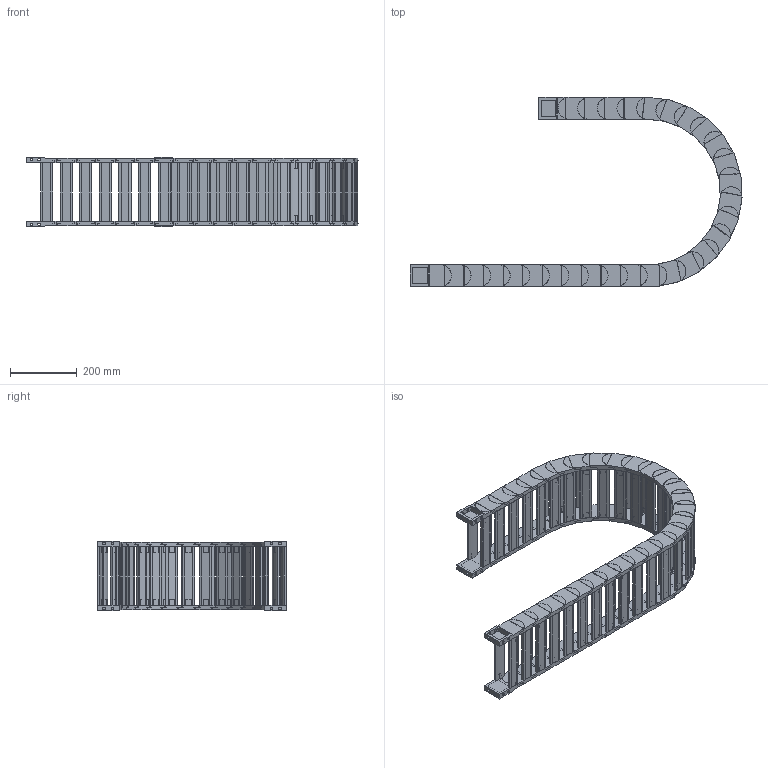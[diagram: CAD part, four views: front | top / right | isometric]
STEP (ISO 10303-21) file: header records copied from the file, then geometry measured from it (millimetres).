
FILE_DESCRIPTION((''),'2;1');
FILE_NAME('HD45-R250-ZPT_ASM','2022-06-20T20:14:33',('admin'),(''),'CREO PARAMETRIC BY PTC INC, 2021164','CREO PARAMETRIC BY PTC INC, 2021164','');
FILE_SCHEMA(('CONFIG_CONTROL_DESIGN','GEOMETRIC_VALIDATION_PROPERTIES_MIM'));
Length unit declared in the file: millimetre
Products named in the file (6): HD45-585; 45-500001; HD45_ASM; H45-T1-G; H45-T2-G; HD45-R250-ZPT_ASM
Assembly tree (34 placements, depth 3):
  HD45-R250-ZPT_ASM
    HD45_ASM  x28
      HD45-585
      45-500001
    H45-T1-G
    H45-T2-G
    45-500001  x2
Bounding box: 991.73 x 564.73 x 208.4 mm (x, y, z)
Volume: 6421816.7 mm3; surface area: 2114701 mm2
Topology: 120 solids, 120 shells, 2322 faces, 6218 edges, 4260 vertices
Faces by surface type: plane 1526, cylinder 796
Entity records: 8726 total; most frequent: CARTESIAN_POINT 1408, DIRECTION 1398, ORIENTED_EDGE 1276, EDGE_CURVE 638, AXIS2_PLACEMENT_3D 488, VERTEX_POINT 432, VECTOR 422, LINE 422
